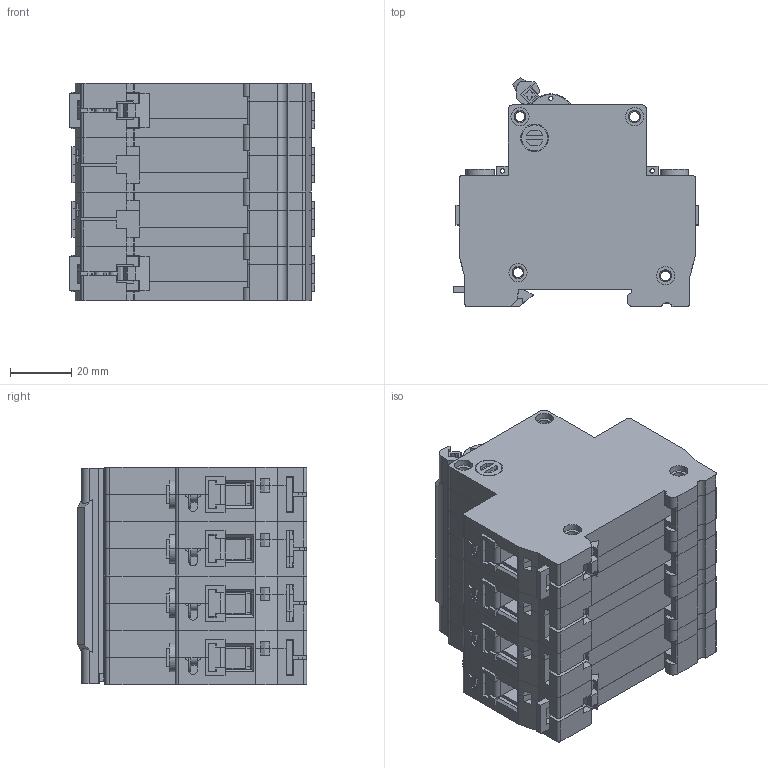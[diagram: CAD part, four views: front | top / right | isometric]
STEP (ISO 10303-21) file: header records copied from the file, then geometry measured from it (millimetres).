
FILE_DESCRIPTION (( 'STEP AP214' ), '1' );
FILE_NAME ('臍47-29 4 瀁錌黟.STEP', '2022-11-18T09:57:50', ( '' ), ( '' ), 'SwSTEP 2.0', 'SolidWorks 2018', '' );
FILE_SCHEMA (( 'AUTOMOTIVE_DESIGN' ));
Length unit declared in the file: millimetre
Products named in the file (14): Êîëîäêà (ÂÀ47-29) 14.02.2022; Ðó÷êà (ÂÀ47-29 Changan) 04.2022; Áîêîâèíà ëåâàÿ (ÂÀ47-29 Changan) 04.2022; ﾂ鏆鮏 (ﾂﾀ47-29 OFA) 14.02.2022; ÂÀ47-29 1Õ Changan 04.2022_1 ¤«ï 4; 鎔艜 (臍47-29) 14.02.2022; ﾂﾀ47-29 1ﾕ Changan 04.2022_尚皚･､ｭｨｩ ｯｮｫ髜; 青觌屣赅 (吕47-29 OFA) 04.2022_4 釥; ﾂﾀ47-29 1ﾕ Changan 04.2022_｡･ｧ ｧ鬣ｫｪｨ; 臍47-29 4 瀁錌黟; 青汶篪赅 (吕47-29) 14.02.2022; Ñêîáà (ÂÀ47-29 OFA) 04.2022_4 ¯®«îá ; Çàùåëêà (ÂÀ47-29 Changan) 04.2022; Áîêîâèíà ïðàâàÿ (ÂÀ47-29 Changan) 04.2022
Assembly tree (44 placements, depth 3):
  臍47-29 4 瀁錌黟
    ÂÀ47-29 1Õ Changan 04.2022_1 ¤«ï 4
      Áîêîâèíà ïðàâàÿ (ÂÀ47-29 Changan) 04.2022
      Áîêîâèíà ëåâàÿ (ÂÀ47-29 Changan) 04.2022
      Çàùåëêà (ÂÀ47-29 Changan) 04.2022
      Ðó÷êà (ÂÀ47-29 Changan) 04.2022
      青觌屣赅 (吕47-29 OFA) 04.2022_4 釥  x4
      青汶篪赅 (吕47-29) 14.02.2022  x2
      鎔艜 (臍47-29) 14.02.2022  x2
      ﾂ鏆鮏 (ﾂﾀ47-29 OFA) 14.02.2022  x2
      Êîëîäêà (ÂÀ47-29) 14.02.2022  x2
    ﾂﾀ47-29 1ﾕ Changan 04.2022_｡･ｧ ｧ鬣ｫｪｨ  x2
      Áîêîâèíà ïðàâàÿ (ÂÀ47-29 Changan) 04.2022
      Áîêîâèíà ëåâàÿ (ÂÀ47-29 Changan) 04.2022
      Ðó÷êà (ÂÀ47-29 Changan) 04.2022
      青汶篪赅 (吕47-29) 14.02.2022
      鎔艜 (臍47-29) 14.02.2022
      ﾂ鏆鮏 (ﾂﾀ47-29 OFA) 14.02.2022
      Êîëîäêà (ÂÀ47-29) 14.02.2022
    ﾂﾀ47-29 1ﾕ Changan 04.2022_尚皚･､ｭｨｩ ｯｮｫ髜
      Áîêîâèíà ïðàâàÿ (ÂÀ47-29 Changan) 04.2022
      Áîêîâèíà ëåâàÿ (ÂÀ47-29 Changan) 04.2022
      Çàùåëêà (ÂÀ47-29 Changan) 04.2022
      Ðó÷êà (ÂÀ47-29 Changan) 04.2022
      青汶篪赅 (吕47-29) 14.02.2022  x2
      鎔艜 (臍47-29) 14.02.2022  x2
      ﾂ鏆鮏 (ﾂﾀ47-29 OFA) 14.02.2022  x2
      Êîëîäêà (ÂÀ47-29) 14.02.2022  x2
    Ñêîáà (ÂÀ47-29 OFA) 04.2022_4 ¯®«îá 
Bounding box: 79.83 x 74.7 x 70.8 mm (x, y, z)
Volume: 248371.1 mm3; surface area: 135261.7 mm2
Topology: 51 solids, 51 shells, 3426 faces, 9254 edges, 5980 vertices
Faces by surface type: plane 2502, cylinder 836, torus 88
Entity records: 23397 total; most frequent: CARTESIAN_POINT 4115, ORIENTED_EDGE 3922, DIRECTION 3861, EDGE_CURVE 1961, LINE 1523, VECTOR 1523, VERTEX_POINT 1279, AXIS2_PLACEMENT_3D 1169
